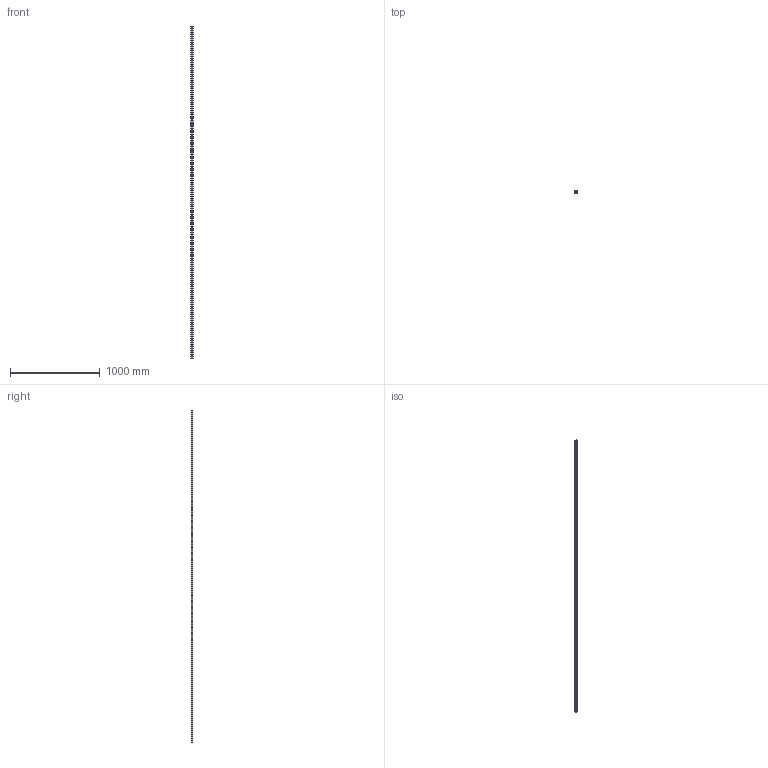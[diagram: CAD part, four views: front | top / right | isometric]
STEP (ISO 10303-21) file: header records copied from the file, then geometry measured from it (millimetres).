
FILE_DESCRIPTION (( 'STEP AP203' ), '1' );
FILE_NAME ('L1016.BRF25-3700.step', '2019-06-13T08:48:01', ( '' ), ( '' ), 'SwSTEP 2.0', 'SolidWorks 2017', '' );
FILE_SCHEMA (( 'CONFIG_CONTROL_DESIGN' ));
Length unit declared in the file: millimetre
Products named in the file (1): L1016.BRF25-3700
Bounding box: 23 x 19.2 x 3700 mm (x, y, z)
Volume: 1412709.6 mm3; surface area: 340270 mm2
Topology: 1 solids, 1 shells, 460 faces, 1064 edges, 606 vertices
Faces by surface type: cylinder 252, cone 124, plane 84
Entity records: 12309 total; most frequent: DIRECTION 2366, CARTESIAN_POINT 2007, ORIENTED_EDGE 1880, AXIS2_PLACEMENT_3D 965, EDGE_CURVE 940, VERTEX_POINT 606, EDGE_LOOP 584, CIRCLE 504
